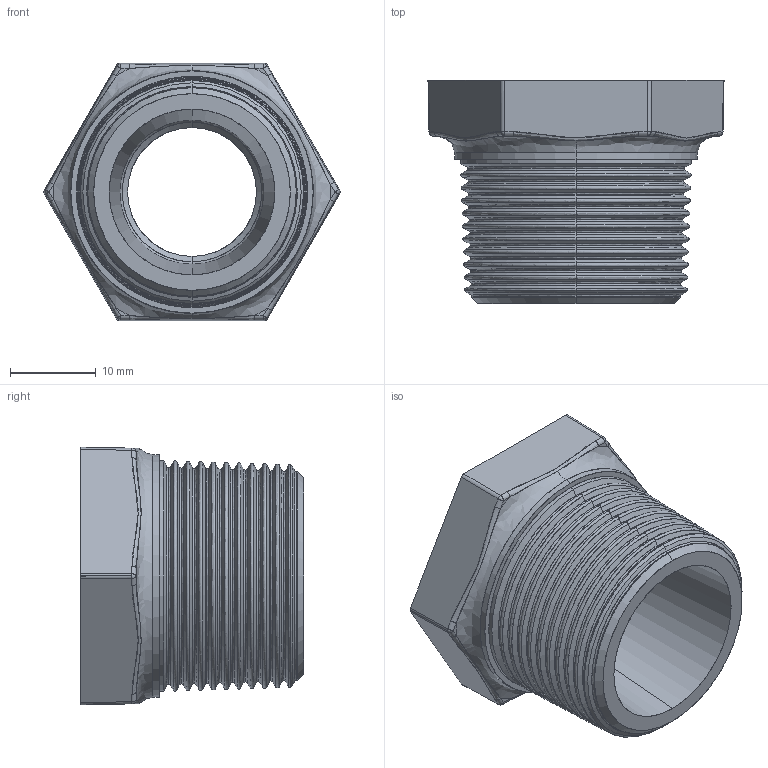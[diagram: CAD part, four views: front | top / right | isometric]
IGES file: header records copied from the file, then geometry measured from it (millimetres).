
Start section: SolidWorks IGES file using analytic representation for surfaces
Global section: file name: C:\Users\Joel Rosa\Desktop\Tubulação\12-01-OK\12-01-028.IGS; native system: SolidWorks 2011; preprocessor: SolidWorks 2011; author: Joel Rosa; date: 121203.195005; units: millimetre
Bounding box: 34.49 x 26 x 30 mm (x, y, z)
Surface area: 5732 mm2 (no closed solid volume)
Topology: 0 solids, 0 shells, 378 faces, 3283 edges, 3283 vertices
Faces by surface type: bspline 275, revolution 103
